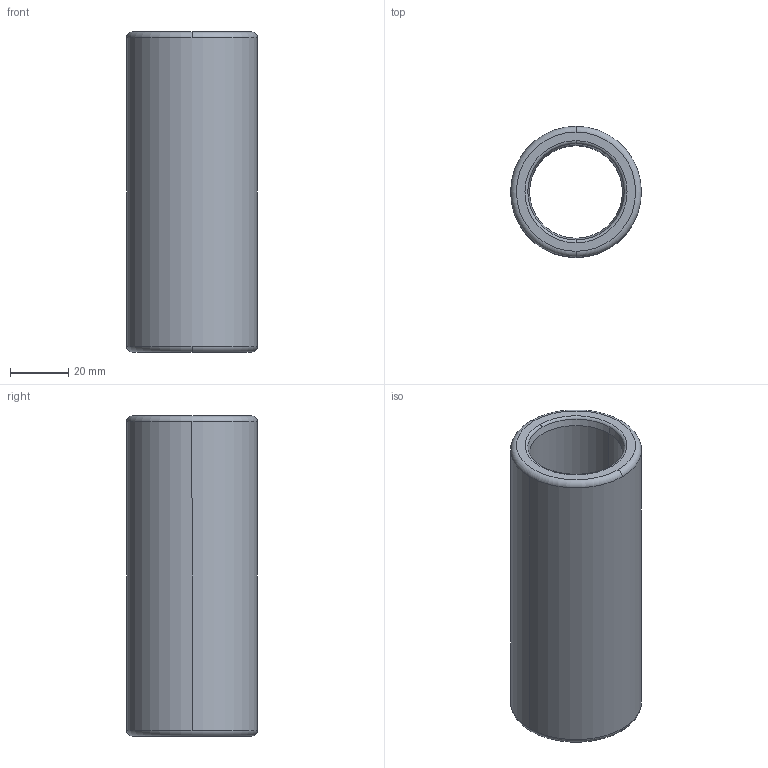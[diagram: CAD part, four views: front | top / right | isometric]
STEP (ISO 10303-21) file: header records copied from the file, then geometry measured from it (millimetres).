
FILE_DESCRIPTION((''),'2;1');
FILE_NAME('B30_024_110.stp','2009-01-12T09:57:33',(''),(''),'Mechanical Desktop 2009','Mechanical Desktop 2009',', , ');
FILE_SCHEMA(('CONFIG_CONTROL_DESIGN'));
Length unit declared in the file: millimetre
Products named in the file (2): Product; blmdl1
Assembly tree (1 placements, depth 2):
  Product
    blmdl1
Bounding box: 44.99 x 44.99 x 110 mm (x, y, z)
Volume: 86071.9 mm3; surface area: 27744 mm2
Topology: 1 solids, 1 shells, 18 faces, 48 edges, 32 vertices
Faces by surface type: torus 8, cylinder 4, cone 4, plane 2
Entity records: 705 total; most frequent: DIRECTION 128, CARTESIAN_POINT 100, ORIENTED_EDGE 96, AXIS2_PLACEMENT_3D 60, EDGE_CURVE 48, CIRCLE 40, VERTEX_POINT 32, EDGE_LOOP 20
